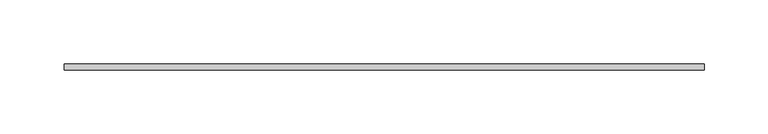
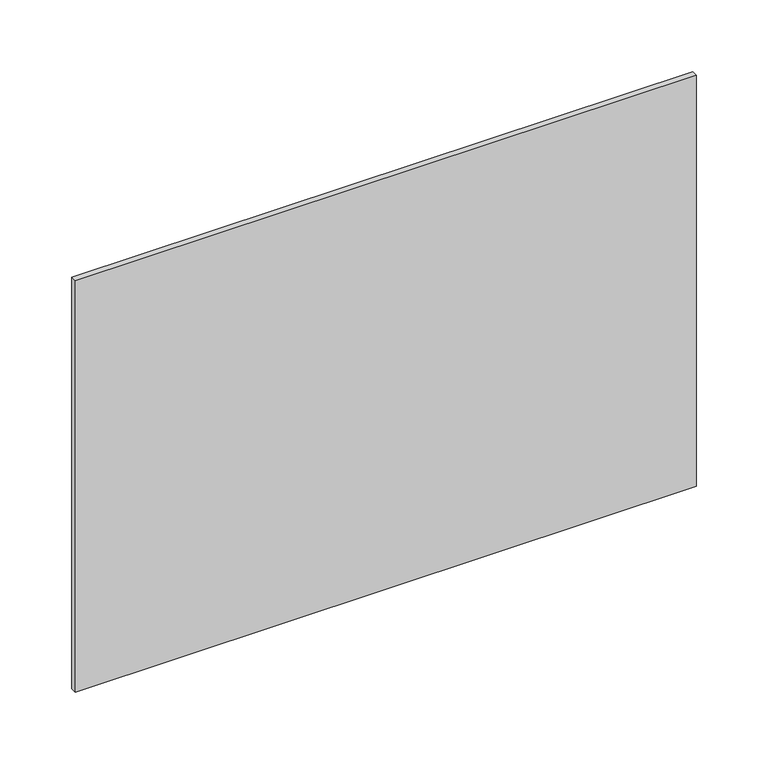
"""IFC4 building model written with IfcOpenShell, lengths in millimetres: damper geometry, ZYR_15.03 Unió Rect Conducte : ZYR_15.03 Unió Rect Conducte."""

from ifc_helpers import new_model, si_unit, frame, origin, place, context, project, spatial, polyline, outline, extrude, source, transform, mapped, element, save


def damper_ae7b68c1(model_context):
    return source(origin(), model_context, "Body", "SweptSolid", [
        extrude(outline(polyline([(250.0, -2.5), (-250.0, -2.5), (-250.0, 2.5), (250.0, 2.5), (250.0, -2.5)])), frame((0.0, 0.0, -175.0), z_axis=(0.0, 0.0, 1.0), x_axis=(1.0, 0.0, 0.0)), (0.0, 0.0, 1.0), 350.0),
    ])


if __name__ == "__main__":
    model = new_model("IFC4")
    model_context = context("Model", 3, world=origin())
    ifc_project = project(units=[si_unit("LENGTHUNIT", "METRE", prefix="MILLI")], contexts=[model_context])
    site = spatial("IfcSite", under=ifc_project)
    building = spatial("IfcBuilding", under=site)
    placement = place(None, origin())
    damper_shape = damper_ae7b68c1(model_context)
    element("IfcDamper", 1, ObjectType="ZYR_15.03 Unió Rect Conducte : ZYR_15.03 Unió Rect Conducte", at=placement, inside=building, context=model_context, shape_type="MappedRepresentation", body=[
        mapped(damper_shape, transform((0.0, 0.0, 0.0), x_axis=(1.0, 0.0, 0.0), y_axis=(0.0, 1.0, 0.0), z_axis=(0.0, 0.0, 1.0))),
    ])
    save(model, "model.ifc")
